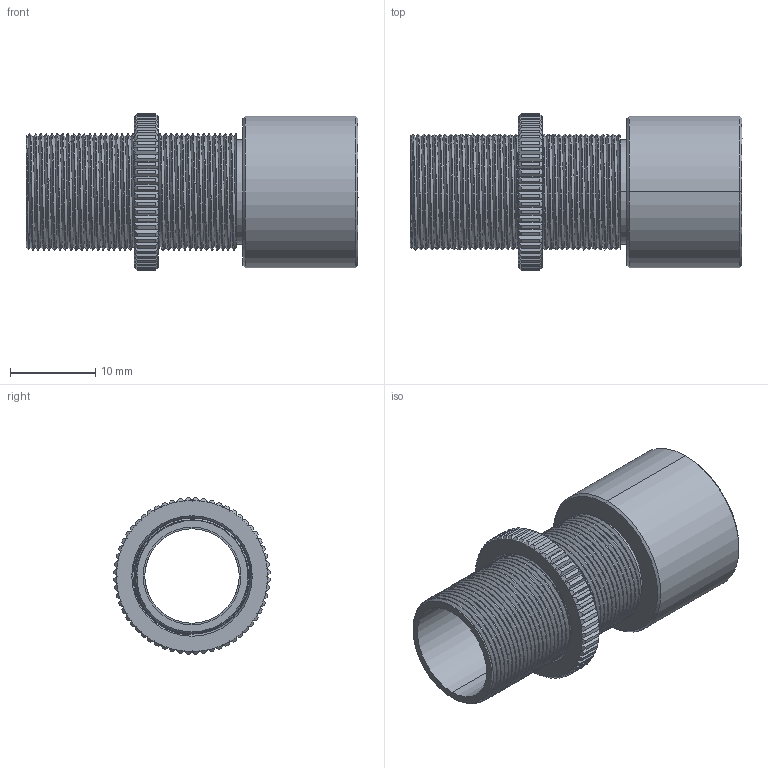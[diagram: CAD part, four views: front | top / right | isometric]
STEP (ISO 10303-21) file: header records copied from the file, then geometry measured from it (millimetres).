
FILE_DESCRIPTION((''),'2;1');
FILE_NAME('SM05V10_ASM','2023-02-24T',('daizh'),(''),'CREO PARAMETRIC BY PTC INC, 2018360','CREO PARAMETRIC BY PTC INC, 2018360','');
FILE_SCHEMA(('CONFIG_CONTROL_DESIGN'));
Length unit declared in the file: millimetre
Products named in the file (4): SM05V10_A2; SM05V10_A1; CSK05; SM05V10_ASM
Assembly tree (3 placements, depth 2):
  SM05V10_ASM
    SM05V10_A2
    SM05V10_A1
    CSK05
Bounding box: 38.86 x 18.29 x 18.29 mm (x, y, z)
Volume: 2618.8 mm3; surface area: 5214.4 mm2
Topology: 3 solids, 3 shells, 530 faces, 1532 edges, 1011 vertices
Faces by surface type: cylinder 194, plane 145, cone 136, bspline 55
Entity records: 34690 total; most frequent: CARTESIAN_POINT 21702, ORIENTED_EDGE 3064, DIRECTION 2196, EDGE_CURVE 1532, VERTEX_POINT 1011, AXIS2_PLACEMENT_3D 777, VECTOR 642, LINE 642
